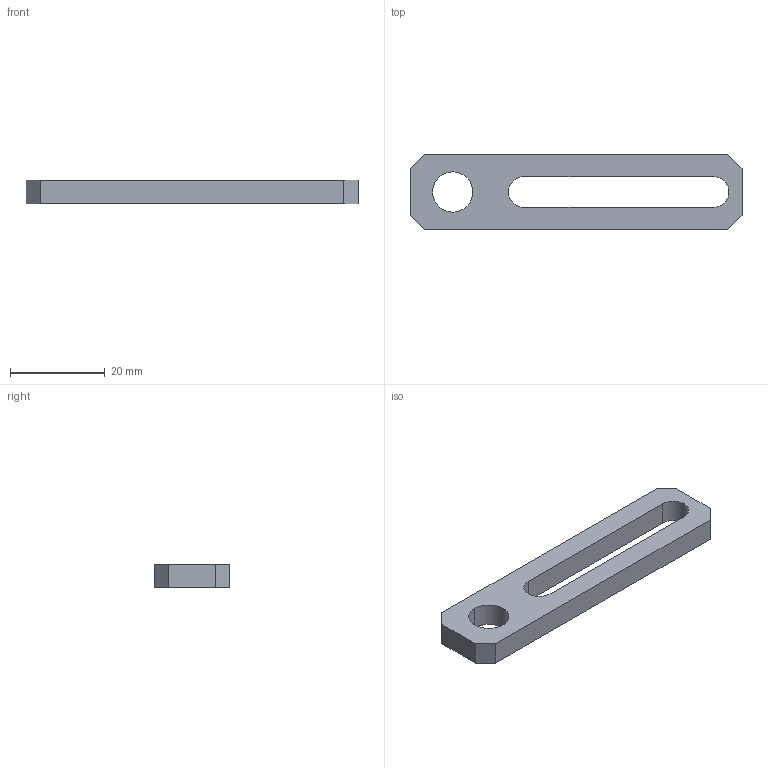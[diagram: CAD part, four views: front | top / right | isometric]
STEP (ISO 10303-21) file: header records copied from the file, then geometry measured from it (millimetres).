
FILE_DESCRIPTION (( 'STEP AP214' ), '1' );
FILE_NAME ('SCF3-40M10.STEP', '2019-11-11T00:43:26', ( '微软用户' ), ( '微软中国' ), 'SwSTEP 2.0', 'SolidWorks 2016', '' );
FILE_SCHEMA (( 'AUTOMOTIVE_DESIGN' ));
Length unit declared in the file: millimetre
Products named in the file (1): SCF3-40M10
Bounding box: 70 x 16 x 5 mm (x, y, z)
Volume: 3760.4 mm3; surface area: 2964.6 mm2
Topology: 1 solids, 1 shells, 16 faces, 42 edges, 28 vertices
Faces by surface type: plane 12, cylinder 4
Entity records: 536 total; most frequent: CARTESIAN_POINT 87, ORIENTED_EDGE 84, DIRECTION 84, EDGE_CURVE 42, LINE 34, VECTOR 34, VERTEX_POINT 28, AXIS2_PLACEMENT_3D 25
